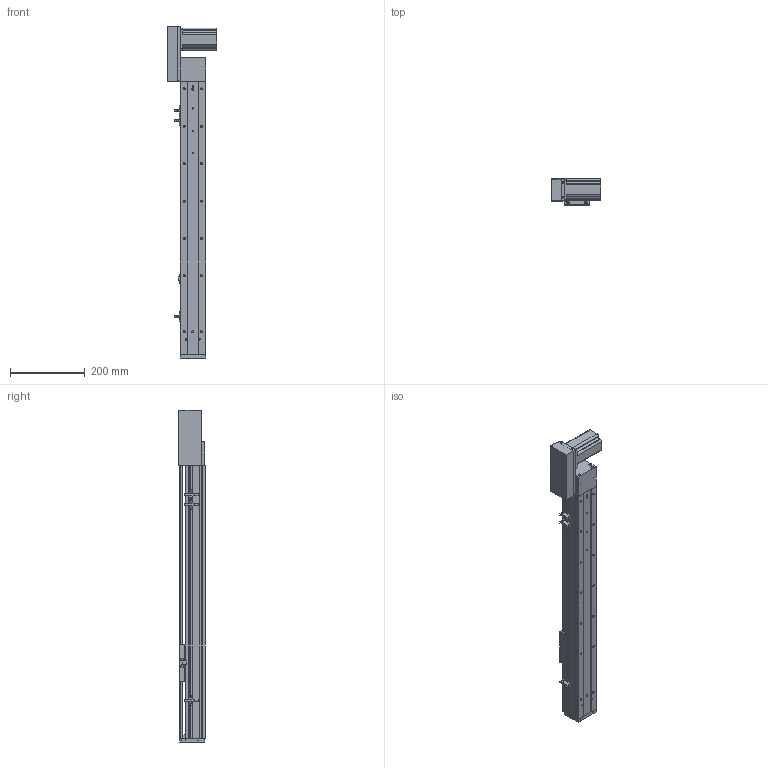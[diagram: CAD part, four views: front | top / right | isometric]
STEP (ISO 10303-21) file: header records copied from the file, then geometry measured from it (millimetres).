
FILE_DESCRIPTION (( 'STEP AP203' ), '1' );
FILE_NAME ('ML68-S550-CR.STEP', '2016-08-04T12:45:56', ( '' ), ( '' ), 'SwSTEP 2.0', 'SolidWorks 2014', '' );
FILE_SCHEMA (( 'CONFIG_CONTROL_DESIGN' ));
Length unit declared in the file: millimetre
Products named in the file (12): 葩璃 ML68菁釱^ML68-S550-CR; QS68酘衵殏萇儂啣; QS68左右折电机板罩子; ML68奻裔^ML68-S550-CR; ML68滅鳥啣盓傅輸; 60換覜結え; 換覜ん; ML68雄赽釱; ML68-BL傷啣; 三协电机MH201N2_預設; ML68-S550-CR; ML68傷啣
Assembly tree (13 placements, depth 2):
  ML68-S550-CR
    葩璃 ML68菁釱^ML68-S550-CR
    ML68奻裔^ML68-S550-CR
    ML68傷啣
    ML68-BL傷啣
    60換覜結え
    換覜ん  x3
    三协电机MH201N2_預設
    ML68雄赽釱
    QS68酘衵殏萇儂啣
    QS68左右折电机板罩子
    ML68滅鳥啣盓傅輸
Bounding box: 133.5 x 70.5 x 888.5 mm (x, y, z)
Volume: 1601313.9 mm3; surface area: 589928.1 mm2
Topology: 13 solids, 13 shells, 905 faces, 2476 edges, 1569 vertices
Faces by surface type: cylinder 412, plane 397, cone 96
Entity records: 28640 total; most frequent: CARTESIAN_POINT 5466, DIRECTION 4690, ORIENTED_EDGE 4452, EDGE_CURVE 2226, AXIS2_PLACEMENT_3D 1693, VERTEX_POINT 1457, VECTOR 1304, LINE 1304
